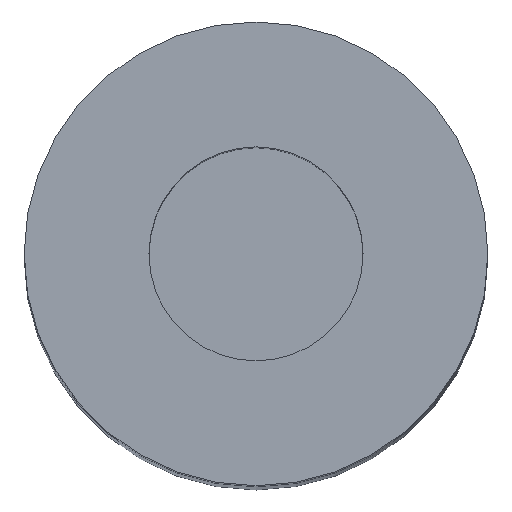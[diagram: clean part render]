
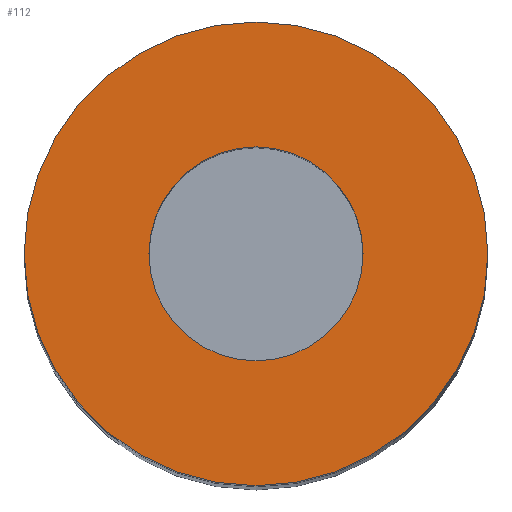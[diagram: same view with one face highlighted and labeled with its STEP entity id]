
A CAD part, top view. The second image highlights one B-rep face of the part: STEP entity #112.
In plain terms, the highlighted planar face has unit normal (0, 0, 1).
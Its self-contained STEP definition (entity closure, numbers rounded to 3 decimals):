
#99=PLANE('',#310);
#104=FACE_BOUND('',#147,.T.);
#105=FACE_BOUND('',#148,.T.);
#112=ADVANCED_FACE('',(#104,#105),#99,.T.);
#147=EDGE_LOOP('',(#191,#192));
#148=EDGE_LOOP('',(#193,#194));
#163=CIRCLE('',#302,3.);
#166=CIRCLE('',#306,3.);
#167=CIRCLE('',#308,6.5);
#168=CIRCLE('',#309,6.5);
#191=ORIENTED_EDGE('',*,*,#263,.F.);
#192=ORIENTED_EDGE('',*,*,#264,.F.);
#193=ORIENTED_EDGE('',*,*,#262,.T.);
#194=ORIENTED_EDGE('',*,*,#258,.T.);
#240=VERTEX_POINT('',#420);
#241=VERTEX_POINT('',#422);
#243=VERTEX_POINT('',#431);
#244=VERTEX_POINT('',#432);
#258=EDGE_CURVE('',#241,#240,#163,.T.);
#262=EDGE_CURVE('',#240,#241,#166,.T.);
#263=EDGE_CURVE('',#243,#244,#167,.T.);
#264=EDGE_CURVE('',#244,#243,#168,.T.);
#302=AXIS2_PLACEMENT_3D('',#421,#340,#341);
#306=AXIS2_PLACEMENT_3D('',#428,#349,#350);
#308=AXIS2_PLACEMENT_3D('',#430,#353,#354);
#309=AXIS2_PLACEMENT_3D('',#433,#355,#356);
#310=AXIS2_PLACEMENT_3D('',#434,#357,#358);
#340=DIRECTION('',(0.,0.,-1.));
#341=DIRECTION('',(1.,0.,0.));
#349=DIRECTION('',(0.,0.,-1.));
#350=DIRECTION('',(-1.,0.,0.));
#353=DIRECTION('',(0.,0.,-1.));
#354=DIRECTION('',(1.,0.,0.));
#355=DIRECTION('',(0.,0.,-1.));
#356=DIRECTION('',(-1.,0.,0.));
#357=DIRECTION('',(0.,0.,1.));
#358=DIRECTION('',(-1.,0.,0.));
#420=CARTESIAN_POINT('',(0.,3.,0.));
#421=CARTESIAN_POINT('',(0.,0.,0.));
#422=CARTESIAN_POINT('',(0.,-3.,0.));
#428=CARTESIAN_POINT('',(0.,0.,0.));
#430=CARTESIAN_POINT('',(0.,0.,0.));
#431=CARTESIAN_POINT('',(0.,-6.5,0.));
#432=CARTESIAN_POINT('',(0.,6.5,0.));
#433=CARTESIAN_POINT('',(0.,0.,0.));
#434=CARTESIAN_POINT('',(0.,0.,0.));
